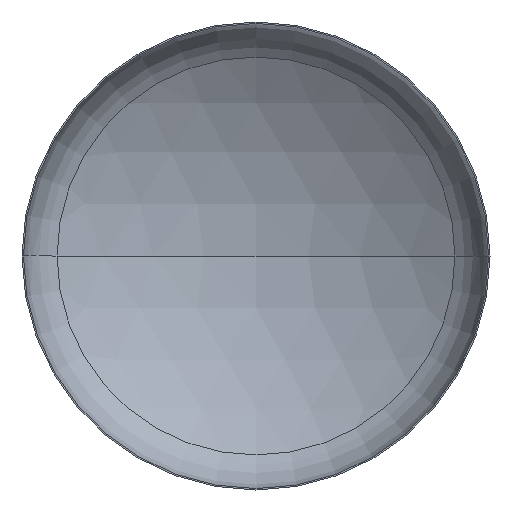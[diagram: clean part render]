
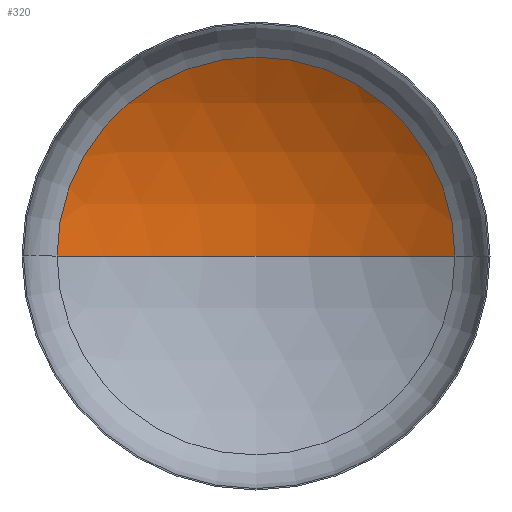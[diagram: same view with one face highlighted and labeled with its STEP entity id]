
A CAD part, front view. The second image highlights one B-rep face of the part: STEP entity #320.
In plain terms, the highlighted spherical face has radius 2400 mm.
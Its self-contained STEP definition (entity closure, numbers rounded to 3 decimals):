
#1 = CARTESIAN_POINT ( 'NONE',  ( 0., -1613.362, 0. ) ) ;
#12 = AXIS2_PLACEMENT_3D ( 'NONE', #93, #62, #97 ) ;
#28 = AXIS2_PLACEMENT_3D ( 'NONE', #1, #116, #74 ) ;
#30 = AXIS2_PLACEMENT_3D ( 'NONE', #235, #392, #261 ) ;
#31 = AXIS2_PLACEMENT_3D ( 'NONE', #219, #220, #207 ) ;
#58 = VERTEX_POINT ( 'NONE', #231 ) ;
#60 = CARTESIAN_POINT ( 'NONE',  ( -1275.464, 419.663, 0. ) ) ;
#62 = DIRECTION ( 'NONE',  ( 0., 0., -1. ) ) ;
#72 = EDGE_CURVE ( 'NONE', #58, #301, #280, .T. ) ;
#74 = DIRECTION ( 'NONE',  ( 1., 0., 0. ) ) ;
#80 = EDGE_CURVE ( 'NONE', #130, #58, #395, .T. ) ;
#81 = EDGE_CURVE ( 'NONE', #130, #301, #334, .T. ) ;
#93 = CARTESIAN_POINT ( 'NONE',  ( 0., -1613.362, 0. ) ) ;
#97 = DIRECTION ( 'NONE',  ( -1., 0., 0. ) ) ;
#98 = ORIENTED_EDGE ( 'NONE', *, *, #72, .T. ) ;
#116 = DIRECTION ( 'NONE',  ( 0., 0., 1. ) ) ;
#128 = ORIENTED_EDGE ( 'NONE', *, *, #80, .T. ) ;
#130 = VERTEX_POINT ( 'NONE', #278 ) ;
#169 = SPHERICAL_SURFACE ( 'NONE', #12, 2400. ) ;
#190 = ORIENTED_EDGE ( 'NONE', *, *, #81, .F. ) ;
#207 = DIRECTION ( 'NONE',  ( 1., 0., 0. ) ) ;
#219 = CARTESIAN_POINT ( 'NONE',  ( 0., 419.663, 0. ) ) ;
#220 = DIRECTION ( 'NONE',  ( 0., -1., 0. ) ) ;
#231 = CARTESIAN_POINT ( 'NONE',  ( 1275.464, 419.663, 0. ) ) ;
#235 = CARTESIAN_POINT ( 'NONE',  ( 0., -1613.362, 0. ) ) ;
#247 = EDGE_LOOP ( 'NONE', ( #190, #128, #98 ) ) ;
#261 = DIRECTION ( 'NONE',  ( -1., 0., 0. ) ) ;
#278 = CARTESIAN_POINT ( 'NONE',  ( 0., 786.638, 0. ) ) ;
#280 = CIRCLE ( 'NONE', #31, 1275.464 ) ;
#301 = VERTEX_POINT ( 'NONE', #60 ) ;
#318 = FACE_OUTER_BOUND ( 'NONE', #247, .T. ) ;
#320 = ADVANCED_FACE ( 'NONE', ( #318 ), #169, .F. ) ;
#334 = CIRCLE ( 'NONE', #28, 2400. ) ;
#392 = DIRECTION ( 'NONE',  ( 0., 0., -1. ) ) ;
#395 = CIRCLE ( 'NONE', #30, 2400. ) ;
